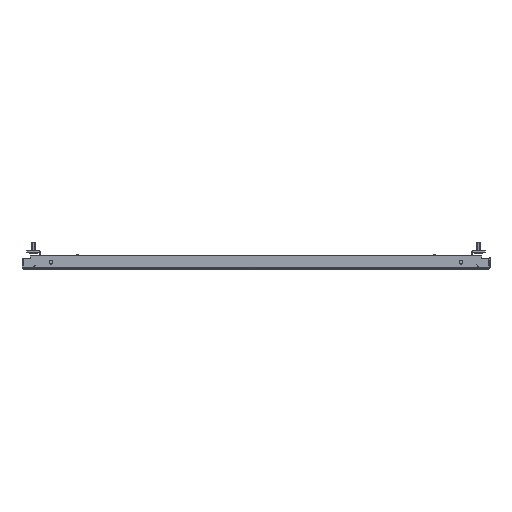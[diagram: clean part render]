
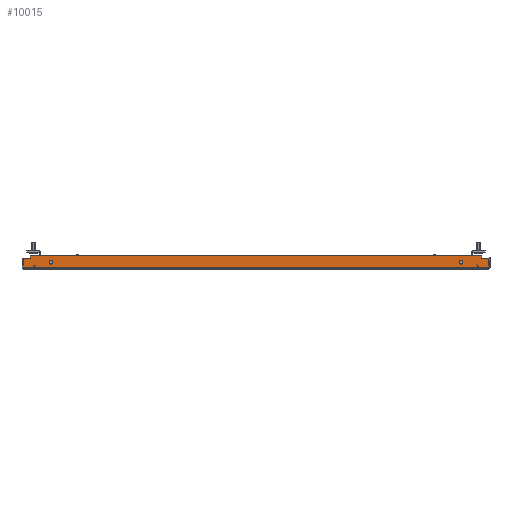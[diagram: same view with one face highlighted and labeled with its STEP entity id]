
A CAD part, front view. The second image highlights one B-rep face of the part: STEP entity #10015.
In plain terms, the highlighted planar face has unit normal (0, -1, 0).
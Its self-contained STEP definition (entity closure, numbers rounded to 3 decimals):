
#13 = CARTESIAN_POINT ( 'NONE',  ( -336.505, -791.501, 14.675 ) ) ;
#87 = VERTEX_POINT ( 'NONE', #2832 ) ;
#718 = EDGE_LOOP ( 'NONE', ( #4108, #12390 ) ) ;
#818 = AXIS2_PLACEMENT_3D ( 'NONE', #2078, #10754, #3382 ) ;
#845 = CARTESIAN_POINT ( 'NONE',  ( -346.081, -791.501, 14.675 ) ) ;
#857 = CARTESIAN_POINT ( 'NONE',  ( -305.822, -791.501, 8.842 ) ) ;
#984 = VERTEX_POINT ( 'NONE', #13 ) ;
#1070 = VERTEX_POINT ( 'NONE', #14188 ) ;
#1236 = CARTESIAN_POINT ( 'NONE',  ( 336.505, -791.501, 18.367 ) ) ;
#1402 = LINE ( 'NONE', #15544, #7674 ) ;
#1684 = CARTESIAN_POINT ( 'NONE',  ( -346.081, -791.501, 1.524 ) ) ;
#1797 = VECTOR ( 'NONE', #3608, 1000. ) ;
#2078 = CARTESIAN_POINT ( 'NONE',  ( 305.822, -791.501, 8.842 ) ) ;
#2147 = DIRECTION ( 'NONE',  ( -1., 0., 0. ) ) ;
#2214 = LINE ( 'NONE', #3495, #14677 ) ;
#2381 = ORIENTED_EDGE ( 'NONE', *, *, #7886, .T. ) ;
#2609 = VERTEX_POINT ( 'NONE', #10454 ) ;
#2717 = VERTEX_POINT ( 'NONE', #13090 ) ;
#2832 = CARTESIAN_POINT ( 'NONE',  ( -308.603, -791.501, 8.842 ) ) ;
#3041 = CIRCLE ( 'NONE', #818, 2.781 ) ;
#3068 = CIRCLE ( 'NONE', #5039, 2.781 ) ;
#3182 = FACE_BOUND ( 'NONE', #8552, .T. ) ;
#3354 = CARTESIAN_POINT ( 'NONE',  ( 305.822, -791.501, 8.842 ) ) ;
#3382 = DIRECTION ( 'NONE',  ( -1., 0., 0. ) ) ;
#3495 = CARTESIAN_POINT ( 'NONE',  ( 336.505, -791.501, 18.367 ) ) ;
#3608 = DIRECTION ( 'NONE',  ( -1., 0., 0. ) ) ;
#3664 = DIRECTION ( 'NONE',  ( 0., 0., 1. ) ) ;
#3736 = EDGE_CURVE ( 'NONE', #6341, #1070, #3068, .T. ) ;
#3848 = EDGE_CURVE ( 'NONE', #6622, #87, #7701, .T. ) ;
#4014 = CARTESIAN_POINT ( 'NONE',  ( 336.505, -791.501, 14.675 ) ) ;
#4108 = ORIENTED_EDGE ( 'NONE', *, *, #8007, .T. ) ;
#4189 = AXIS2_PLACEMENT_3D ( 'NONE', #6204, #5009, #13413 ) ;
#4228 = LINE ( 'NONE', #12841, #10747 ) ;
#4613 = DIRECTION ( 'NONE',  ( -1., 0., 0. ) ) ;
#4682 = ORIENTED_EDGE ( 'NONE', *, *, #7976, .T. ) ;
#4878 = ORIENTED_EDGE ( 'NONE', *, *, #8035, .T. ) ;
#5009 = DIRECTION ( 'NONE',  ( 0., 1., 0. ) ) ;
#5039 = AXIS2_PLACEMENT_3D ( 'NONE', #3354, #11865, #4613 ) ;
#5170 = VECTOR ( 'NONE', #9624, 1000. ) ;
#5289 = EDGE_LOOP ( 'NONE', ( #4878, #15526, #2381, #10697, #8873, #10375, #8486, #12386 ) ) ;
#5643 = DIRECTION ( 'NONE',  ( -1., 0., 0. ) ) ;
#5860 = CARTESIAN_POINT ( 'NONE',  ( -305.822, -791.501, 8.842 ) ) ;
#6079 = ORIENTED_EDGE ( 'NONE', *, *, #3736, .T. ) ;
#6204 = CARTESIAN_POINT ( 'NONE',  ( -346.081, -791.501, 18.367 ) ) ;
#6341 = VERTEX_POINT ( 'NONE', #12239 ) ;
#6622 = VERTEX_POINT ( 'NONE', #10399 ) ;
#6872 = FACE_BOUND ( 'NONE', #718, .T. ) ;
#7122 = DIRECTION ( 'NONE',  ( -1., 0., 0. ) ) ;
#7674 = VECTOR ( 'NONE', #8532, 1000. ) ;
#7701 = CIRCLE ( 'NONE', #13854, 2.781 ) ;
#7823 = EDGE_CURVE ( 'NONE', #2609, #14183, #8626, .T. ) ;
#7886 = EDGE_CURVE ( 'NONE', #10029, #8292, #4228, .T. ) ;
#7976 = EDGE_CURVE ( 'NONE', #1070, #6341, #3041, .T. ) ;
#8007 = EDGE_CURVE ( 'NONE', #87, #6622, #9593, .T. ) ;
#8035 = EDGE_CURVE ( 'NONE', #8572, #12576, #9216, .T. ) ;
#8053 = EDGE_CURVE ( 'NONE', #12576, #10029, #2214, .T. ) ;
#8059 = EDGE_CURVE ( 'NONE', #8292, #984, #11623, .T. ) ;
#8112 = EDGE_CURVE ( 'NONE', #984, #2717, #11281, .T. ) ;
#8119 = EDGE_CURVE ( 'NONE', #14183, #2717, #1402, .T. ) ;
#8140 = EDGE_CURVE ( 'NONE', #2609, #8572, #10910, .T. ) ;
#8292 = VERTEX_POINT ( 'NONE', #10062 ) ;
#8375 = CARTESIAN_POINT ( 'NONE',  ( -336.505, -791.501, 18.367 ) ) ;
#8486 = ORIENTED_EDGE ( 'NONE', *, *, #7823, .F. ) ;
#8532 = DIRECTION ( 'NONE',  ( 0., 0., 1. ) ) ;
#8552 = EDGE_LOOP ( 'NONE', ( #4682, #6079 ) ) ;
#8572 = VERTEX_POINT ( 'NONE', #14130 ) ;
#8626 = LINE ( 'NONE', #1684, #12153 ) ;
#8873 = ORIENTED_EDGE ( 'NONE', *, *, #8112, .T. ) ;
#9216 = LINE ( 'NONE', #845, #15025 ) ;
#9593 = CIRCLE ( 'NONE', #14943, 2.781 ) ;
#9596 = DIRECTION ( 'NONE',  ( 0., 1., 0. ) ) ;
#9624 = DIRECTION ( 'NONE',  ( 0., 0., -1. ) ) ;
#9730 = CARTESIAN_POINT ( 'NONE',  ( -346.081, -791.501, 14.675 ) ) ;
#10015 = ADVANCED_FACE ( 'NONE', ( #3182, #6872, #12833 ), #12237, .F. ) ;
#10029 = VERTEX_POINT ( 'NONE', #1236 ) ;
#10056 = CARTESIAN_POINT ( 'NONE',  ( -347.505, -791.501, 1.524 ) ) ;
#10062 = CARTESIAN_POINT ( 'NONE',  ( -336.505, -791.501, 18.367 ) ) ;
#10375 = ORIENTED_EDGE ( 'NONE', *, *, #8119, .F. ) ;
#10398 = DIRECTION ( 'NONE',  ( -1., 0., 0. ) ) ;
#10399 = CARTESIAN_POINT ( 'NONE',  ( -303.041, -791.501, 8.842 ) ) ;
#10454 = CARTESIAN_POINT ( 'NONE',  ( 347.505, -791.501, 1.524 ) ) ;
#10697 = ORIENTED_EDGE ( 'NONE', *, *, #8059, .T. ) ;
#10747 = VECTOR ( 'NONE', #5643, 1000. ) ;
#10754 = DIRECTION ( 'NONE',  ( 0., 1., 0. ) ) ;
#10910 = LINE ( 'NONE', #12126, #13599 ) ;
#11281 = LINE ( 'NONE', #9730, #1797 ) ;
#11623 = LINE ( 'NONE', #8375, #5170 ) ;
#11865 = DIRECTION ( 'NONE',  ( 0., 1., 0. ) ) ;
#11983 = DIRECTION ( 'NONE',  ( 0., 0., 1. ) ) ;
#12126 = CARTESIAN_POINT ( 'NONE',  ( 347.505, -791.501, 1.524 ) ) ;
#12153 = VECTOR ( 'NONE', #10398, 1000. ) ;
#12237 = PLANE ( 'NONE',  #4189 ) ;
#12239 = CARTESIAN_POINT ( 'NONE',  ( 308.603, -791.501, 8.842 ) ) ;
#12386 = ORIENTED_EDGE ( 'NONE', *, *, #8140, .T. ) ;
#12390 = ORIENTED_EDGE ( 'NONE', *, *, #3848, .T. ) ;
#12576 = VERTEX_POINT ( 'NONE', #4014 ) ;
#12833 = FACE_OUTER_BOUND ( 'NONE', #5289, .T. ) ;
#12841 = CARTESIAN_POINT ( 'NONE',  ( -346.081, -791.501, 18.367 ) ) ;
#13042 = DIRECTION ( 'NONE',  ( -1., 0., 0. ) ) ;
#13090 = CARTESIAN_POINT ( 'NONE',  ( -347.505, -791.501, 14.675 ) ) ;
#13413 = DIRECTION ( 'NONE',  ( -1., 0., 0. ) ) ;
#13599 = VECTOR ( 'NONE', #3664, 1000. ) ;
#13854 = AXIS2_PLACEMENT_3D ( 'NONE', #857, #9596, #2147 ) ;
#14130 = CARTESIAN_POINT ( 'NONE',  ( 347.505, -791.501, 14.675 ) ) ;
#14181 = DIRECTION ( 'NONE',  ( 0., 1., 0. ) ) ;
#14183 = VERTEX_POINT ( 'NONE', #10056 ) ;
#14188 = CARTESIAN_POINT ( 'NONE',  ( 303.041, -791.501, 8.842 ) ) ;
#14677 = VECTOR ( 'NONE', #11983, 1000. ) ;
#14943 = AXIS2_PLACEMENT_3D ( 'NONE', #5860, #14181, #7122 ) ;
#15025 = VECTOR ( 'NONE', #13042, 1000. ) ;
#15526 = ORIENTED_EDGE ( 'NONE', *, *, #8053, .T. ) ;
#15544 = CARTESIAN_POINT ( 'NONE',  ( -347.505, -791.501, 1.524 ) ) ;
